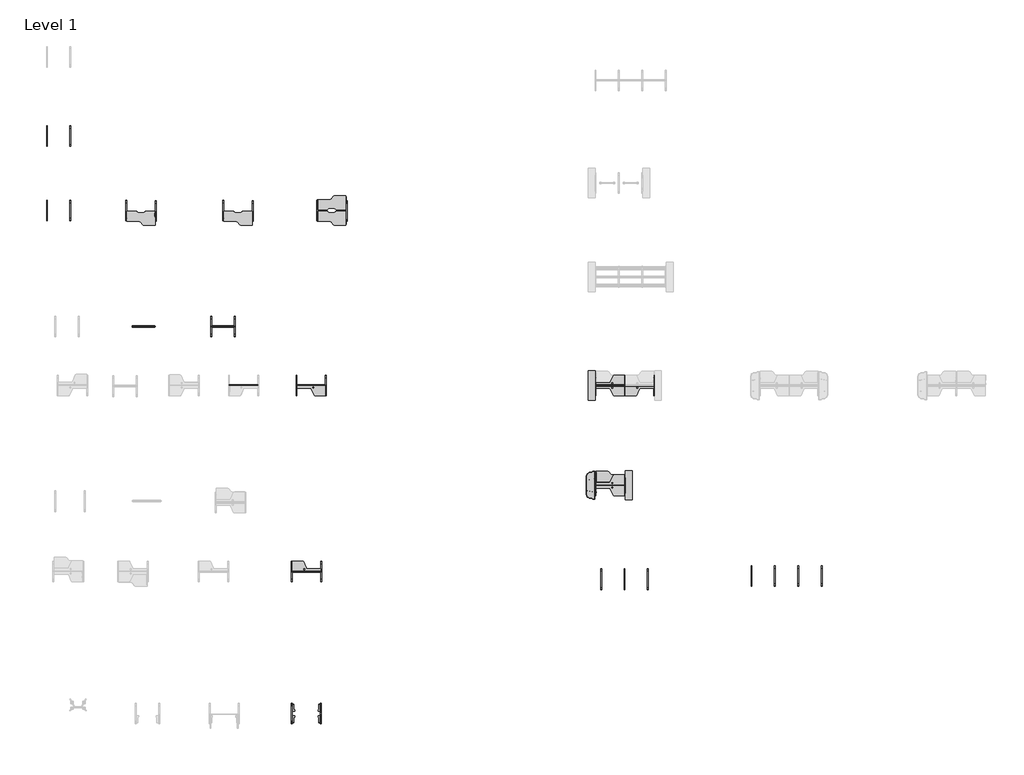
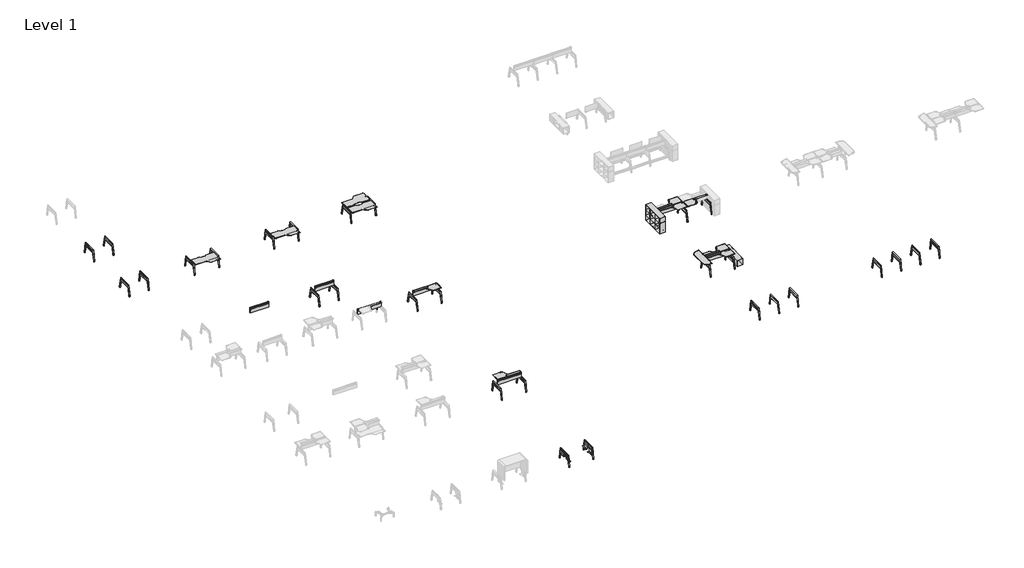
# One storey, part 2 of 4: 117 furniture elements.
"""IFC4 building model written with IfcOpenShell, lengths in millimetres."""

from ifc_helpers import new_model, si_unit, origin, place, context, project, spatial, transform, mapped, element, save
from components import furniture_07929c5c, furniture_5ffd5a01, furniture_46c987b0, furniture_3_high_75bf60bf, furniture_3_high_59e398f0, furniture_48w_f59d3814, furniture_60w_9ca0c22e, furniture_60w_6a745f56, furniture_60w_left_193ce283, furniture_60w_right_423f7bdd, furniture_60w_right_6b6f8c7d, furniture_60w_right_3e926bd7, furniture_60w_right_09d68f9b, attachment_bracket_e48f39cd, bracket_5da60547, bracket_b20a2959, full_half_8ba35e3a, full_half_125b1efd

model = new_model("IFC4")

# Units and contexts
model_context = context("Model", 3, world=origin())
ifc_project = project(units=[si_unit("LENGTHUNIT", "METRE", prefix="MILLI")], contexts=[model_context])

# Site, building, storey
site = spatial("IfcSite", under=ifc_project)
building = spatial("IfcBuilding", under=site)
storey = spatial("IfcBuildingStorey", under=building, Name="Level 1", Elevation=0.0)

# Furniture
placement = place(None, origin())
furniture_shape = furniture_07929c5c(model_context)
element("IfcFurniture", 1, ObjectType="Steelcase Turnstone - Bivi - Table - Leg : 2D x 42 1/4W 28 1/2H", at=placement, inside=storey, context=model_context, shape_type="MappedRepresentation", body=[
    mapped(furniture_shape, transform((693709.5422567, -1521.3993674, 0.0), x_axis=(-1.0, 0.0, 0.0), y_axis=(0.0, -1.0, 0.0), z_axis=(0.0, 0.0, 1.0))),
])
element("IfcFurniture", 2, ObjectType="Steelcase Turnstone - Bivi - Table - Leg : 2D x 42 1/4W 28 1/2H", at=placement, inside=storey, context=model_context, shape_type="MappedRepresentation", body=[
    mapped(furniture_shape, transform((702234.9696271, -11408.9383258, 0.0), x_axis=(-1.0, 0.0, 0.0), y_axis=(0.0, -1.0, 0.0), z_axis=(0.0, 0.0, 1.0))),
])
element("IfcFurniture", 3, ObjectType="Steelcase Turnstone - Bivi - Table - Leg : 2D x 42 1/4W 28 1/2H", at=placement, inside=storey, context=model_context, shape_type="MappedRepresentation", body=[
    mapped(furniture_shape, transform((706967.4208352, -14467.3937544, 0.0), x_axis=(-1.0, 0.0, 0.0), y_axis=(0.0, -1.0, 0.0), z_axis=(0.0, 0.0, 1.0))),
])
element("IfcFurniture", 4, ObjectType="Steelcase Turnstone - Bivi - Table - Leg : 2D x 42 1/4W 28 1/2H", at=placement, inside=storey, context=model_context, shape_type="MappedRepresentation", body=[
    mapped(furniture_shape, transform((693709.5422567, -5382.1993674, 0.0), x_axis=(-1.0, 0.0, 0.0), y_axis=(0.0, -1.0, 0.0), z_axis=(0.0, 0.0, 1.0))),
])
element("IfcFurniture", 5, ObjectType="Steelcase Turnstone - Bivi - Table - Leg : 2D x 42 1/4W 28 1/2H", at=placement, inside=storey, context=model_context, shape_type="MappedRepresentation", body=[
    mapped(furniture_shape, transform((698141.8482581, -5413.8699005, 0.0), x_axis=(-1.0, 0.0, 0.0), y_axis=(0.0, -1.0, 0.0), z_axis=(0.0, 0.0, 1.0))),
])
element("IfcFurniture", 6, ObjectType="Steelcase Turnstone - Bivi - Table - Leg : 2D x 42 1/4W 28 1/2H", at=placement, inside=storey, context=model_context, shape_type="MappedRepresentation", body=[
    mapped(furniture_shape, transform((703171.0482581, -5413.8699005, 0.0), x_axis=(-1.0, 0.0, 0.0), y_axis=(0.0, -1.0, 0.0), z_axis=(0.0, 0.0, 1.0))),
])
element("IfcFurniture", 7, ObjectType="Steelcase Turnstone - Bivi - Table - Leg : 2D x 42 1/4W 28 1/2H", at=placement, inside=storey, context=model_context, shape_type="MappedRepresentation", body=[
    mapped(furniture_shape, transform((708047.8482581, -5413.8699005, 0.0), x_axis=(-1.0, 0.0, 0.0), y_axis=(0.0, -1.0, 0.0), z_axis=(0.0, 0.0, 1.0))),
])
element("IfcFurniture", 8, ObjectType="Steelcase Turnstone - Bivi - Table - Leg : 2D x 42 1/4W 28 1/2H", at=placement, inside=storey, context=model_context, shape_type="MappedRepresentation", body=[
    mapped(furniture_shape, transform((706733.9327901, -24123.6204149, 0.0), x_axis=(-1.0, 0.0, 0.0), y_axis=(0.0, -1.0, 0.0), z_axis=(0.0, 0.0, 1.0))),
])
element("IfcFurniture", 9, ObjectType="Steelcase Turnstone - Bivi - Table - Leg : 2D x 42 1/4W 28 1/2H", at=placement, inside=storey, context=model_context, shape_type="MappedRepresentation", body=[
    mapped(furniture_shape, transform((706712.6550189, -31496.9374387, 0.0), x_axis=(-1.0, 0.0, 0.0), y_axis=(0.0, -1.0, 0.0), z_axis=(0.0, 0.0, 1.0))),
])
element("IfcFurniture", 10, ObjectType="Steelcase Turnstone - Bivi - Table - Leg : 2D x 42 1/4W 28 1/2H", at=placement, inside=storey, context=model_context, shape_type="MappedRepresentation", body=[
    mapped(furniture_shape, transform((722492.1850089, -14477.6722991, 0.0), x_axis=(-1.0, 0.0, 0.0), y_axis=(0.0, -1.0, 0.0), z_axis=(0.0, 0.0, 1.0))),
])
element("IfcFurniture", 11, ObjectType="Steelcase Turnstone - Bivi - Table - Leg : 2D x 42 1/4W 28 1/2H", at=placement, inside=storey, context=model_context, shape_type="MappedRepresentation", body=[
    mapped(furniture_shape, transform((722492.1850089, -19659.2722991, 0.0), x_axis=(-1.0, 0.0, 0.0), y_axis=(0.0, -1.0, 0.0), z_axis=(0.0, 0.0, 1.0))),
])
element("IfcFurniture", 12, ObjectType="Steelcase Turnstone - Bivi - Table - Leg : 2D x 42 1/4W 28 1/2H", at=placement, inside=storey, context=model_context, shape_type="MappedRepresentation", body=[
    mapped(furniture_shape, transform((722476.381193, -24527.5774873, 0.0), x_axis=(-1.0, 0.0, 0.0), y_axis=(0.0, -1.0, 0.0), z_axis=(0.0, 0.0, 1.0))),
])
element("IfcFurniture", 13, ObjectType="Steelcase Turnstone - Bivi - Table - Leg : 2D x 42 1/4W 28 1/2H", at=placement, inside=storey, context=model_context, shape_type="MappedRepresentation", body=[
    mapped(furniture_shape, transform((730287.3023207, -24364.8226951, 0.0), x_axis=(-1.0, 0.0, 0.0), y_axis=(0.0, -1.0, 0.0), z_axis=(0.0, 0.0, 1.0))),
])
element("IfcFurniture", 14, ObjectType="Steelcase Turnstone - Bivi - Table - Leg : 2D x 42 1/4W 28 1/2H", at=placement, inside=storey, context=model_context, shape_type="MappedRepresentation", body=[
    mapped(furniture_shape, transform((731504.8259207, -24364.8226951, 0.0), x_axis=(-1.0, 0.0, 0.0), y_axis=(0.0, -1.0, 0.0), z_axis=(0.0, 0.0, 1.0))),
])
element("IfcFurniture", 15, ObjectType="Steelcase Turnstone - Bivi - Table - Leg : 2D x 42 1/4W 28 1/2H", at=placement, inside=storey, context=model_context, shape_type="MappedRepresentation", body=[
    mapped(furniture_shape, transform((732722.3495207, -24364.8226951, 0.0), x_axis=(-1.0, 0.0, 0.0), y_axis=(0.0, -1.0, 0.0), z_axis=(0.0, 0.0, 1.0))),
])
furniture_2_shape = furniture_5ffd5a01(model_context)
element("IfcFurniture", 16, ObjectType="Steelcase Turnstone - Bivi - Table - Leg : 2D x 42 1/4W 28 1/2H", at=placement, inside=storey, context=model_context, shape_type="MappedRepresentation", body=[
    mapped(furniture_2_shape, transform((692442.8950567, -1521.3993674, 0.0), x_axis=(1.0, 0.0, 0.0), y_axis=(0.0, 1.0, 0.0), z_axis=(0.0, 0.0, 1.0))),
])
element("IfcFurniture", 17, ObjectType="Steelcase Turnstone - Bivi - Table - Leg : 2D x 42 1/4W 28 1/2H", at=placement, inside=storey, context=model_context, shape_type="MappedRepresentation", body=[
    mapped(furniture_2_shape, transform((700968.3224271, -11408.9383258, 0.0), x_axis=(1.0, 0.0, 0.0), y_axis=(0.0, 1.0, 0.0), z_axis=(0.0, 0.0, 1.0))),
])
element("IfcFurniture", 18, ObjectType="Steelcase Turnstone - Bivi - Table - Leg : 2D x 42 1/4W 28 1/2H", at=placement, inside=storey, context=model_context, shape_type="MappedRepresentation", body=[
    mapped(furniture_2_shape, transform((705395.9736352, -14467.3937544, 0.0), x_axis=(1.0, 0.0, 0.0), y_axis=(0.0, 1.0, 0.0), z_axis=(0.0, 0.0, 1.0))),
])
element("IfcFurniture", 19, ObjectType="Steelcase Turnstone - Bivi - Table - Leg : 2D x 42 1/4W 28 1/2H", at=placement, inside=storey, context=model_context, shape_type="MappedRepresentation", body=[
    mapped(furniture_2_shape, transform((692442.8950567, -5382.1993674, 0.0), x_axis=(1.0, 0.0, 0.0), y_axis=(0.0, 1.0, 0.0), z_axis=(0.0, 0.0, 1.0))),
])
element("IfcFurniture", 20, ObjectType="Steelcase Turnstone - Bivi - Table - Leg : 2D x 42 1/4W 28 1/2H", at=placement, inside=storey, context=model_context, shape_type="MappedRepresentation", body=[
    mapped(furniture_2_shape, transform((696557.6950567, -5382.1993674, 0.0), x_axis=(1.0, 0.0, 0.0), y_axis=(0.0, 1.0, 0.0), z_axis=(0.0, 0.0, 1.0))),
])
element("IfcFurniture", 21, ObjectType="Steelcase Turnstone - Bivi - Table - Leg : 2D x 42 1/4W 28 1/2H", at=placement, inside=storey, context=model_context, shape_type="MappedRepresentation", body=[
    mapped(furniture_2_shape, transform((701586.8950567, -5382.1993674, 0.0), x_axis=(1.0, 0.0, 0.0), y_axis=(0.0, 1.0, 0.0), z_axis=(0.0, 0.0, 1.0))),
])
element("IfcFurniture", 22, ObjectType="Steelcase Turnstone - Bivi - Table - Leg : 2D x 42 1/4W 28 1/2H", at=placement, inside=storey, context=model_context, shape_type="MappedRepresentation", body=[
    mapped(furniture_2_shape, transform((706463.6950567, -5382.1993674, 0.0), x_axis=(1.0, 0.0, 0.0), y_axis=(0.0, 1.0, 0.0), z_axis=(0.0, 0.0, 1.0))),
])
element("IfcFurniture", 23, ObjectType="Steelcase Turnstone - Bivi - Table - Leg : 2D x 42 1/4W 28 1/2H", at=placement, inside=storey, context=model_context, shape_type="MappedRepresentation", body=[
    mapped(furniture_2_shape, transform((705147.0911447, -24123.6204149, 0.0), x_axis=(1.0, 0.0, 0.0), y_axis=(0.0, 1.0, 0.0), z_axis=(0.0, 0.0, 1.0))),
])
element("IfcFurniture", 24, ObjectType="Steelcase Turnstone - Bivi - Table - Leg : 2D x 42 1/4W 28 1/2H", at=placement, inside=storey, context=model_context, shape_type="MappedRepresentation", body=[
    mapped(furniture_2_shape, transform((705147.0911447, -31496.9374387, 0.0), x_axis=(1.0, 0.0, 0.0), y_axis=(0.0, 1.0, 0.0), z_axis=(0.0, 0.0, 1.0))),
])
element("IfcFurniture", 25, ObjectType="Steelcase Turnstone - Bivi - Table - Leg : 2D x 42 1/4W 28 1/2H", at=placement, inside=storey, context=model_context, shape_type="MappedRepresentation", body=[
    mapped(furniture_2_shape, transform((720920.7378089, -14477.6722991, 0.0), x_axis=(1.0, 0.0, 0.0), y_axis=(0.0, 1.0, 0.0), z_axis=(0.0, 0.0, 1.0))),
])
element("IfcFurniture", 26, ObjectType="Steelcase Turnstone - Bivi - Table - Leg : 2D x 42 1/4W 28 1/2H", at=placement, inside=storey, context=model_context, shape_type="MappedRepresentation", body=[
    mapped(furniture_2_shape, transform((723963.7086089, -14477.6722991, 0.0), x_axis=(1.0, 0.0, 0.0), y_axis=(0.0, 1.0, 0.0), z_axis=(0.0, 0.0, 1.0))),
])
element("IfcFurniture", 27, ObjectType="Steelcase Turnstone - Bivi - Table - Leg : 2D x 42 1/4W 28 1/2H", at=placement, inside=storey, context=model_context, shape_type="MappedRepresentation", body=[
    mapped(furniture_2_shape, transform((720920.7378089, -19659.2722991, 0.0), x_axis=(1.0, 0.0, 0.0), y_axis=(0.0, 1.0, 0.0), z_axis=(0.0, 0.0, 1.0))),
])
element("IfcFurniture", 28, ObjectType="Steelcase Turnstone - Bivi - Table - Leg : 2D x 42 1/4W 28 1/2H", at=placement, inside=storey, context=model_context, shape_type="MappedRepresentation", body=[
    mapped(furniture_2_shape, transform((721209.733993, -24527.5774873, 0.0), x_axis=(1.0, 0.0, 0.0), y_axis=(0.0, 1.0, 0.0), z_axis=(0.0, 0.0, 1.0))),
])
element("IfcFurniture", 29, ObjectType="Steelcase Turnstone - Bivi - Table - Leg : 2D x 42 1/4W 28 1/2H", at=placement, inside=storey, context=model_context, shape_type="MappedRepresentation", body=[
    mapped(furniture_2_shape, transform((723644.781193, -24527.5774873, 0.0), x_axis=(1.0, 0.0, 0.0), y_axis=(0.0, 1.0, 0.0), z_axis=(0.0, 0.0, 1.0))),
])
element("IfcFurniture", 30, ObjectType="Steelcase Turnstone - Bivi - Table - Leg : 2D x 42 1/4W 28 1/2H", at=placement, inside=storey, context=model_context, shape_type="MappedRepresentation", body=[
    mapped(furniture_2_shape, transform((729020.6551207, -24364.8226951, 0.0), x_axis=(1.0, 0.0, 0.0), y_axis=(0.0, 1.0, 0.0), z_axis=(0.0, 0.0, 1.0))),
])
element("IfcFurniture", 31, ObjectType="Steelcase Turnstone - Bivi - Table - Leg : 2D x 42 1/4W 28 1/2H", at=placement, inside=storey, context=model_context, shape_type="MappedRepresentation", body=[
    mapped(furniture_2_shape, transform((731455.7023207, -24364.8226951, 0.0), x_axis=(1.0, 0.0, 0.0), y_axis=(0.0, 1.0, 0.0), z_axis=(0.0, 0.0, 1.0))),
])
furniture_3_shape = furniture_46c987b0(model_context)
element("IfcFurniture", 32, ObjectType="Steelcase Turnstone - Bivi - Storage - Trunk Support : Attachcment Bracket", at=placement, inside=storey, context=model_context, shape_type="MappedRepresentation", body=[
    mapped(furniture_3_shape, transform((722470.1505237, -19877.1288494, 0.0), x_axis=(0.0, 1.0000000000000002, 0.0), y_axis=(-1.0000000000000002, 0.0, 0.0), z_axis=(0.0, 0.0, 1.0))),
])
furniture_3_high_shape = furniture_3_high_75bf60bf(model_context)
furniture_3_high_2_shape = furniture_3_high_59e398f0(model_context)
element("IfcFurniture", 33, ObjectType="Steelcase Turnstone - Bivi - Storage - Depot : 3 High", at=placement, inside=storey, context=model_context, shape_type="MappedRepresentation", body=[
    mapped(furniture_3_high_shape, transform((720568.3128089, -14695.5288494, 0.0), x_axis=(0.0, 1.0, 0.0), y_axis=(-1.0, 0.0, 0.0), z_axis=(0.0, 0.0, 1.0))),
    mapped(furniture_3_high_2_shape, transform((720568.3128089, -14695.5288494, 0.0), x_axis=(0.0, 1.0, 0.0), y_axis=(-1.0, 0.0, 0.0), z_axis=(0.0, 0.0, 1.0))),
])
furniture_48w_shape = furniture_48w_f59d3814(model_context)
element("IfcFurniture", 34, ObjectType="Steelcase Turnstone - Bivi - Accessories - High Sit Bracket with Modesty Panel : 48W", at=placement, inside=storey, context=model_context, shape_type="MappedRepresentation", body=[
    mapped(furniture_48w_shape, transform((696748.4680271, -10782.6400419, 0.0), x_axis=(1.0, 0.0, 0.0), y_axis=(0.0, 1.0, 0.0), z_axis=(0.0, 0.0, 1.0))),
])
element("IfcFurniture", 35, ObjectType="Steelcase Turnstone - Bivi - Accessories - High Sit Bracket with Modesty Panel : 48W", at=placement, inside=storey, context=model_context, shape_type="MappedRepresentation", body=[
    mapped(furniture_48w_shape, transform((700863.2680271, -10782.6400419, 0.0), x_axis=(1.0, 0.0, 0.0), y_axis=(0.0, 1.0, 0.0), z_axis=(0.0, 0.0, 1.0))),
])
furniture_60w_shape = furniture_60w_9ca0c22e(model_context)
element("IfcFurniture", 36, ObjectType="Steelcase Turnstone - Bivi - Accessories - High Sit Bracket with Modesty Panel : 60W", at=placement, inside=storey, context=model_context, shape_type="MappedRepresentation", body=[
    mapped(furniture_60w_shape, transform((701938.1192352, -13841.0954705, 0.0), x_axis=(1.0, 0.0, 0.0), y_axis=(0.0, 1.0, 0.0), z_axis=(0.0, 0.0, 1.0))),
])
element("IfcFurniture", 37, ObjectType="Steelcase Turnstone - Bivi - Accessories - High Sit Bracket with Modesty Panel : 60W", at=placement, inside=storey, context=model_context, shape_type="MappedRepresentation", body=[
    mapped(furniture_60w_shape, transform((705443.3192352, -13841.0954705, 0.0), x_axis=(1.0, 0.0, 0.0), y_axis=(0.0, 1.0, 0.0), z_axis=(0.0, 0.0, 1.0))),
])
element("IfcFurniture", 38, ObjectType="Steelcase Turnstone - Bivi - Accessories - High Sit Bracket with Modesty Panel : 60W", at=placement, inside=storey, context=model_context, shape_type="MappedRepresentation", body=[
    mapped(furniture_60w_shape, transform((705202.1339674, -23504.5006044, 0.0), x_axis=(1.0, 0.0, 0.0), y_axis=(0.0, 1.0, 0.0), z_axis=(0.0, 0.0, 1.0))),
])
element("IfcFurniture", 39, ObjectType="Steelcase Turnstone - Bivi - Accessories - High Sit Bracket with Modesty Panel : 60W", at=placement, inside=storey, context=model_context, shape_type="MappedRepresentation", body=[
    mapped(furniture_60w_shape, transform((720969.4306316, -13851.2769492, 0.0), x_axis=(1.0, 0.0, 0.0), y_axis=(0.0, 1.0, 0.0), z_axis=(0.0, 0.0, 1.0))),
])
element("IfcFurniture", 40, ObjectType="Steelcase Turnstone - Bivi - Accessories - High Sit Bracket with Modesty Panel : 60W", at=placement, inside=storey, context=model_context, shape_type="MappedRepresentation", body=[
    mapped(furniture_60w_shape, transform((720969.4306316, -19032.8769492, 0.0), x_axis=(1.0, 0.0, 0.0), y_axis=(0.0, 1.0, 0.0), z_axis=(0.0, 0.0, 1.0))),
])
furniture_60w_2_shape = furniture_60w_6a745f56(model_context)
element("IfcFurniture", 41, ObjectType="Steelcase Turnstone - Bivi - Table - Transaction : 60W", at=placement, inside=storey, context=model_context, shape_type="MappedRepresentation", body=[
    mapped(furniture_60w_2_shape, transform((720919.3046739, -18360.6353497, 0.0), x_axis=(0.0, -1.0000000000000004, 0.0), y_axis=(1.0000000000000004, 0.0, 0.0), z_axis=(0.0, 0.0, 1.0))),
])
furniture_60w_left_shape = furniture_60w_left_193ce283(model_context)
element("IfcFurniture", 42, ObjectType="Steelcase Turnstone - Bivi - Table - Dual Top - Upper : 60W - Left", at=placement, inside=storey, context=model_context, shape_type="MappedRepresentation", body=[
    mapped(furniture_60w_left_shape, transform((722341.5790244, -14769.019473, 0.0), x_axis=(1.0, 0.0, 0.0), y_axis=(0.0, 1.0, 0.0), z_axis=(0.0, 0.0, 1.0))),
])
furniture_60w_right_shape = furniture_60w_right_423f7bdd(model_context)
element("IfcFurniture", 43, ObjectType="Steelcase Turnstone - Bivi - Table - Dual Top - Lower : 60W - Right", at=placement, inside=storey, context=model_context, shape_type="MappedRepresentation", body=[
    mapped(furniture_60w_right_shape, transform((696456.9754163, -5704.3601414, 0.0), x_axis=(1.0, 0.0, 0.0), y_axis=(0.0, 1.0, 0.0), z_axis=(0.0, 0.0, 1.0))),
])
element("IfcFurniture", 44, ObjectType="Steelcase Turnstone - Bivi - Table - Dual Top - Lower : 60W - Right", at=placement, inside=storey, context=model_context, shape_type="MappedRepresentation", body=[
    mapped(furniture_60w_right_shape, transform((701498.8754163, -5704.3601414, 0.0), x_axis=(1.0, 0.0, 0.0), y_axis=(0.0, 1.0, 0.0), z_axis=(0.0, 0.0, 1.0))),
])
element("IfcFurniture", 45, ObjectType="Steelcase Turnstone - Bivi - Table - Dual Top - Lower : 60W - Right", at=placement, inside=storey, context=model_context, shape_type="MappedRepresentation", body=[
    mapped(furniture_60w_right_shape, transform((706362.9754163, -5704.3601414, 0.0), x_axis=(1.0, 0.0, 0.0), y_axis=(0.0, 1.0, 0.0), z_axis=(0.0, 0.0, 1.0))),
])
element("IfcFurniture", 46, ObjectType="Steelcase Turnstone - Bivi - Table - Dual Top - Lower : 60W - Right", at=placement, inside=storey, context=model_context, shape_type="MappedRepresentation", body=[
    mapped(furniture_60w_right_shape, transform((722592.9046493, -18285.5813032, 0.0), x_axis=(-1.0000000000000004, 0.0, 0.0), y_axis=(0.0, -1.0000000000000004, 0.0), z_axis=(0.0, 0.0, 1.0))),
])
furniture_60w_right_2_shape = furniture_60w_right_6b6f8c7d(model_context)
element("IfcFurniture", 47, ObjectType="Steelcase Turnstone - Bivi - Table - Dual Top - Upper : 60W - Right", at=placement, inside=storey, context=model_context, shape_type="MappedRepresentation", body=[
    mapped(furniture_60w_right_2_shape, transform((705294.4912507, -14758.7409282, 12.6390766), x_axis=(1.0, 0.0, 0.0), y_axis=(0.0, 1.0, 0.0), z_axis=(0.0, 0.0, 1.0))),
])
element("IfcFurniture", 48, ObjectType="Steelcase Turnstone - Bivi - Table - Dual Top - Upper : 60W - Right", at=placement, inside=storey, context=model_context, shape_type="MappedRepresentation", body=[
    mapped(furniture_60w_right_2_shape, transform((706829.4959519, -22757.2049585, 0.0), x_axis=(-1.0000000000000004, 0.0, 0.0), y_axis=(0.0, -1.0000000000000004, 0.0), z_axis=(0.0, 0.0, 1.0))),
])
element("IfcFurniture", 49, ObjectType="Steelcase Turnstone - Bivi - Table - Dual Top - Upper : 60W - Right", at=placement, inside=storey, context=model_context, shape_type="MappedRepresentation", body=[
    mapped(furniture_60w_right_2_shape, transform((720819.2554244, -14769.019473, 0.0), x_axis=(1.0, 0.0, 0.0), y_axis=(0.0, 1.0, 0.0), z_axis=(0.0, 0.0, 1.0))),
])
element("IfcFurniture", 50, ObjectType="Steelcase Turnstone - Bivi - Table - Dual Top - Upper : 60W - Right", at=placement, inside=storey, context=model_context, shape_type="MappedRepresentation", body=[
    mapped(furniture_60w_right_2_shape, transform((720819.2554244, -19950.619473, 0.0), x_axis=(1.0, 0.0, 0.0), y_axis=(0.0, 1.0, 0.0), z_axis=(0.0, 0.0, 1.0))),
])
furniture_60w_right_3_shape = furniture_60w_right_3e926bd7(model_context)
element("IfcFurniture", 51, ObjectType="Steelcase Turnstone - Bivi - Table - Dual Top - Lower : 60W - Right", at=placement, inside=storey, context=model_context, shape_type="MappedRepresentation", body=[
    mapped(furniture_60w_right_3_shape, transform((706362.9754163, -3986.7646945, 0.0), x_axis=(1.0, 0.0, 0.0), y_axis=(0.0, 1.0, 0.0), z_axis=(0.0, 0.0, 1.0))),
])
furniture_60w_right_4_shape = furniture_60w_right_09d68f9b(model_context)
element("IfcFurniture", 52, ObjectType="Steelcase Turnstone - Bivi - Table - Dual Top - Upper : 60W - Right", at=placement, inside=storey, context=model_context, shape_type="MappedRepresentation", body=[
    mapped(furniture_60w_right_4_shape, transform((720819.2554244, -13098.5001474, 0.0), x_axis=(1.0, 0.0, 0.0), y_axis=(0.0, 1.0, 0.0), z_axis=(0.0, 0.0, 1.0))),
])
element("IfcFurniture", 53, ObjectType="Steelcase Turnstone - Bivi - Table - Dual Top - Upper : 60W - Right", at=placement, inside=storey, context=model_context, shape_type="MappedRepresentation", body=[
    mapped(furniture_60w_right_4_shape, transform((720819.2554244, -18280.1001474, 0.0), x_axis=(1.0, 0.0, 0.0), y_axis=(0.0, 1.0, 0.0), z_axis=(0.0, 0.0, 1.0))),
])
attachment_bracket_shape = attachment_bracket_e48f39cd(model_context)
element("IfcFurniture", 54, ObjectType="Steelcase Turnstone - Bivi - Storage - Trunk : Attachment Bracket", at=placement, inside=storey, context=model_context, shape_type="MappedRepresentation", body=[
    mapped(attachment_bracket_shape, transform((722494.7122028, -19877.1288494, 0.0), x_axis=(0.0, 1.0000000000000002, 0.0), y_axis=(-1.0000000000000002, 0.0, 0.0), z_axis=(0.0, 0.0, 1.0))),
])
bracket_shape = bracket_5da60547(model_context)
element("IfcFurniture", 55, ObjectType="Steelcase Turnstone - Bivi - Seat - Rumble Seat - Table Frame Attachment Bracket : Bracket", at=placement, inside=storey, context=model_context, shape_type="MappedRepresentation", body=[
    mapped(bracket_shape, transform((705090.6445691, -31249.1441068, 0.2767651), x_axis=(1.0, 0.0, 0.0), y_axis=(0.0, 1.0, 0.0), z_axis=(0.0, 0.0, 1.0))),
])
bracket_2_shape = bracket_b20a2959(model_context)
element("IfcFurniture", 56, ObjectType="Steelcase Turnstone - Bivi - Seat - Rumble Seat - Table Frame Attachment Bracket : Bracket", at=placement, inside=storey, context=model_context, shape_type="MappedRepresentation", body=[
    mapped(bracket_2_shape, transform((705090.6445691, -30671.4568717, 0.2767651), x_axis=(1.0, 0.0, 0.0), y_axis=(0.0, 1.0, 0.0), z_axis=(0.0, 0.0, 1.0))),
])
full_half_shape = full_half_8ba35e3a(model_context)
element("IfcFurniture", 57, ObjectType="Steelcase Turnstone - Bivi - Table - Leg Cover : Full/Half", at=placement, inside=storey, context=model_context, shape_type="MappedRepresentation", body=[
    mapped(full_half_shape, transform((692442.8950567, -1521.3993674, 0.0), x_axis=(1.0, 0.0, 0.0), y_axis=(0.0, 1.0, 0.0), z_axis=(0.0, 0.0, 1.0))),
])
element("IfcFurniture", 58, ObjectType="Steelcase Turnstone - Bivi - Table - Leg Cover : Full/Half", at=placement, inside=storey, context=model_context, shape_type="MappedRepresentation", body=[
    mapped(full_half_shape, transform((693709.5422567, -448.1254685, 0.0), x_axis=(-1.0, 0.0, 0.0), y_axis=(0.0, -1.0, 0.0), z_axis=(0.0, 0.0, 1.0))),
])
element("IfcFurniture", 59, ObjectType="Steelcase Turnstone - Bivi - Table - Leg Cover : Full/Half", at=placement, inside=storey, context=model_context, shape_type="MappedRepresentation", body=[
    mapped(full_half_shape, transform((700968.3224271, -11408.9383258, 0.0), x_axis=(1.0, 0.0, 0.0), y_axis=(0.0, 1.0, 0.0), z_axis=(0.0, 0.0, 1.0))),
])
element("IfcFurniture", 60, ObjectType="Steelcase Turnstone - Bivi - Table - Leg Cover : Full/Half", at=placement, inside=storey, context=model_context, shape_type="MappedRepresentation", body=[
    mapped(full_half_shape, transform((702234.9696271, -10335.6644269, 0.0), x_axis=(-1.0, 0.0, 0.0), y_axis=(0.0, -1.0, 0.0), z_axis=(0.0, 0.0, 1.0))),
])
element("IfcFurniture", 61, ObjectType="Steelcase Turnstone - Bivi - Table - Leg Cover : Full/Half", at=placement, inside=storey, context=model_context, shape_type="MappedRepresentation", body=[
    mapped(full_half_shape, transform((703462.2208352, -13394.1198555, 0.0), x_axis=(-1.0, 0.0, 0.0), y_axis=(0.0, -1.0, 0.0), z_axis=(0.0, 0.0, 1.0))),
])
element("IfcFurniture", 62, ObjectType="Steelcase Turnstone - Bivi - Table - Leg Cover : Full/Half", at=placement, inside=storey, context=model_context, shape_type="MappedRepresentation", body=[
    mapped(full_half_shape, transform((705395.9736352, -14467.3937544, 0.0), x_axis=(1.0, 0.0, 0.0), y_axis=(0.0, 1.0, 0.0), z_axis=(0.0, 0.0, 1.0))),
])
element("IfcFurniture", 63, ObjectType="Steelcase Turnstone - Bivi - Table - Leg Cover : Full/Half", at=placement, inside=storey, context=model_context, shape_type="MappedRepresentation", body=[
    mapped(full_half_shape, transform((706967.4208352, -13394.1198555, 0.0), x_axis=(-1.0, 0.0, 0.0), y_axis=(0.0, -1.0, 0.0), z_axis=(0.0, 0.0, 1.0))),
])
element("IfcFurniture", 64, ObjectType="Steelcase Turnstone - Bivi - Table - Leg Cover : Full/Half", at=placement, inside=storey, context=model_context, shape_type="MappedRepresentation", body=[
    mapped(full_half_shape, transform((692442.8950567, -5382.1993674, 0.0), x_axis=(1.0, 0.0, 0.0), y_axis=(0.0, 1.0, 0.0), z_axis=(0.0, 0.0, 1.0))),
])
element("IfcFurniture", 65, ObjectType="Steelcase Turnstone - Bivi - Table - Leg Cover : Full/Half", at=placement, inside=storey, context=model_context, shape_type="MappedRepresentation", body=[
    mapped(full_half_shape, transform((693709.5422567, -4308.9254685, 0.0), x_axis=(-1.0, 0.0, 0.0), y_axis=(0.0, -1.0, 0.0), z_axis=(0.0, 0.0, 1.0))),
])
element("IfcFurniture", 66, ObjectType="Steelcase Turnstone - Bivi - Table - Leg Cover : Full/Half", at=placement, inside=storey, context=model_context, shape_type="MappedRepresentation", body=[
    mapped(full_half_shape, transform((696557.6950567, -5382.1993674, 0.0), x_axis=(1.0, 0.0, 0.0), y_axis=(0.0, 1.0, 0.0), z_axis=(0.0, 0.0, 1.0))),
])
element("IfcFurniture", 67, ObjectType="Steelcase Turnstone - Bivi - Table - Leg Cover : Full/Half", at=placement, inside=storey, context=model_context, shape_type="MappedRepresentation", body=[
    mapped(full_half_shape, transform((698141.8482581, -4340.5960016, 0.0), x_axis=(-1.0, 0.0, 0.0), y_axis=(0.0, -1.0, 0.0), z_axis=(0.0, 0.0, 1.0))),
])
element("IfcFurniture", 68, ObjectType="Steelcase Turnstone - Bivi - Table - Leg Cover : Full/Half", at=placement, inside=storey, context=model_context, shape_type="MappedRepresentation", body=[
    mapped(full_half_shape, transform((701586.8950567, -5382.1993674, 0.0), x_axis=(1.0, 0.0, 0.0), y_axis=(0.0, 1.0, 0.0), z_axis=(0.0, 0.0, 1.0))),
])
element("IfcFurniture", 69, ObjectType="Steelcase Turnstone - Bivi - Table - Leg Cover : Full/Half", at=placement, inside=storey, context=model_context, shape_type="MappedRepresentation", body=[
    mapped(full_half_shape, transform((703171.0482581, -4340.5960016, 0.0), x_axis=(-1.0, 0.0, 0.0), y_axis=(0.0, -1.0, 0.0), z_axis=(0.0, 0.0, 1.0))),
])
element("IfcFurniture", 70, ObjectType="Steelcase Turnstone - Bivi - Table - Leg Cover : Full/Half", at=placement, inside=storey, context=model_context, shape_type="MappedRepresentation", body=[
    mapped(full_half_shape, transform((706463.6950567, -5382.1993674, 0.0), x_axis=(1.0, 0.0, 0.0), y_axis=(0.0, 1.0, 0.0), z_axis=(0.0, 0.0, 1.0))),
])
element("IfcFurniture", 71, ObjectType="Steelcase Turnstone - Bivi - Table - Leg Cover : Full/Half", at=placement, inside=storey, context=model_context, shape_type="MappedRepresentation", body=[
    mapped(full_half_shape, transform((708047.8482581, -4340.5960016, 0.0), x_axis=(-1.0, 0.0, 0.0), y_axis=(0.0, -1.0, 0.0), z_axis=(0.0, 0.0, 1.0))),
])
element("IfcFurniture", 72, ObjectType="Steelcase Turnstone - Bivi - Table - Leg Cover : Full/Half", at=placement, inside=storey, context=model_context, shape_type="MappedRepresentation", body=[
    mapped(full_half_shape, transform((705147.0911447, -24123.6204149, 0.0), x_axis=(1.0, 0.0, 0.0), y_axis=(0.0, 1.0, 0.0), z_axis=(0.0, 0.0, 1.0))),
])
element("IfcFurniture", 73, ObjectType="Steelcase Turnstone - Bivi - Table - Leg Cover : Full/Half", at=placement, inside=storey, context=model_context, shape_type="MappedRepresentation", body=[
    mapped(full_half_shape, transform((706733.9327901, -23050.346516, 0.0), x_axis=(-1.0, 0.0, 0.0), y_axis=(0.0, -1.0, 0.0), z_axis=(0.0, 0.0, 1.0))),
])
element("IfcFurniture", 74, ObjectType="Steelcase Turnstone - Bivi - Table - Leg Cover : Full/Half", at=placement, inside=storey, context=model_context, shape_type="MappedRepresentation", body=[
    mapped(full_half_shape, transform((705147.0911447, -31496.9374387, 0.0), x_axis=(1.0, 0.0, 0.0), y_axis=(0.0, 1.0, 0.0), z_axis=(0.0, 0.0, 1.0))),
])
element("IfcFurniture", 75, ObjectType="Steelcase Turnstone - Bivi - Table - Leg Cover : Full/Half", at=placement, inside=storey, context=model_context, shape_type="MappedRepresentation", body=[
    mapped(full_half_shape, transform((706712.6550189, -30423.6635398, 0.0), x_axis=(-1.0, 0.0, 0.0), y_axis=(0.0, -1.0, 0.0), z_axis=(0.0, 0.0, 1.0))),
])
element("IfcFurniture", 76, ObjectType="Steelcase Turnstone - Bivi - Table - Leg Cover : Full/Half", at=placement, inside=storey, context=model_context, shape_type="MappedRepresentation", body=[
    mapped(full_half_shape, transform((720920.7378089, -14477.6722991, 0.0), x_axis=(1.0, 0.0, 0.0), y_axis=(0.0, 1.0, 0.0), z_axis=(0.0, 0.0, 1.0))),
])
element("IfcFurniture", 77, ObjectType="Steelcase Turnstone - Bivi - Table - Leg Cover : Full/Half", at=placement, inside=storey, context=model_context, shape_type="MappedRepresentation", body=[
    mapped(full_half_shape, transform((723963.7086089, -14477.6722991, 0.0), x_axis=(1.0, 0.0, 0.0), y_axis=(0.0, 1.0, 0.0), z_axis=(0.0, 0.0, 1.0))),
])
element("IfcFurniture", 78, ObjectType="Steelcase Turnstone - Bivi - Table - Leg Cover : Full/Half", at=placement, inside=storey, context=model_context, shape_type="MappedRepresentation", body=[
    mapped(full_half_shape, transform((720920.7378089, -19659.2722991, 0.0), x_axis=(1.0, 0.0, 0.0), y_axis=(0.0, 1.0, 0.0), z_axis=(0.0, 0.0, 1.0))),
])
element("IfcFurniture", 79, ObjectType="Steelcase Turnstone - Bivi - Table - Leg Cover : Full/Half", at=placement, inside=storey, context=model_context, shape_type="MappedRepresentation", body=[
    mapped(full_half_shape, transform((722492.1850089, -18585.9984002, 0.0), x_axis=(-1.0, 0.0, 0.0), y_axis=(0.0, -1.0, 0.0), z_axis=(0.0, 0.0, 1.0))),
])
element("IfcFurniture", 80, ObjectType="Steelcase Turnstone - Bivi - Table - Leg Cover : Full/Half", at=placement, inside=storey, context=model_context, shape_type="MappedRepresentation", body=[
    mapped(full_half_shape, transform((721209.733993, -24527.5774873, 0.0), x_axis=(1.0, 0.0, 0.0), y_axis=(0.0, 1.0, 0.0), z_axis=(0.0, 0.0, 1.0))),
])
element("IfcFurniture", 81, ObjectType="Steelcase Turnstone - Bivi - Table - Leg Cover : Full/Half", at=placement, inside=storey, context=model_context, shape_type="MappedRepresentation", body=[
    mapped(full_half_shape, transform((722476.381193, -23454.3035884, 0.0), x_axis=(-1.0, 0.0, 0.0), y_axis=(0.0, -1.0, 0.0), z_axis=(0.0, 0.0, 1.0))),
])
element("IfcFurniture", 82, ObjectType="Steelcase Turnstone - Bivi - Table - Leg Cover : Full/Half", at=placement, inside=storey, context=model_context, shape_type="MappedRepresentation", body=[
    mapped(full_half_shape, transform((723644.781193, -24527.5774873, 0.0), x_axis=(1.0, 0.0, 0.0), y_axis=(0.0, 1.0, 0.0), z_axis=(0.0, 0.0, 1.0))),
])
element("IfcFurniture", 83, ObjectType="Steelcase Turnstone - Bivi - Table - Leg Cover : Full/Half", at=placement, inside=storey, context=model_context, shape_type="MappedRepresentation", body=[
    mapped(full_half_shape, transform((729020.6551207, -24364.8226951, 0.0), x_axis=(1.0, 0.0, 0.0), y_axis=(0.0, 1.0, 0.0), z_axis=(0.0, 0.0, 1.0))),
])
element("IfcFurniture", 84, ObjectType="Steelcase Turnstone - Bivi - Table - Leg Cover : Full/Half", at=placement, inside=storey, context=model_context, shape_type="MappedRepresentation", body=[
    mapped(full_half_shape, transform((730287.3023207, -23291.5487962, 0.0), x_axis=(-1.0, 0.0, 0.0), y_axis=(0.0, -1.0, 0.0), z_axis=(0.0, 0.0, 1.0))),
])
element("IfcFurniture", 85, ObjectType="Steelcase Turnstone - Bivi - Table - Leg Cover : Full/Half", at=placement, inside=storey, context=model_context, shape_type="MappedRepresentation", body=[
    mapped(full_half_shape, transform((731504.8259207, -23291.5487962, 0.0), x_axis=(-1.0, 0.0, 0.0), y_axis=(0.0, -1.0, 0.0), z_axis=(0.0, 0.0, 1.0))),
])
element("IfcFurniture", 86, ObjectType="Steelcase Turnstone - Bivi - Table - Leg Cover : Full/Half", at=placement, inside=storey, context=model_context, shape_type="MappedRepresentation", body=[
    mapped(full_half_shape, transform((731455.7023207, -24364.8226951, 0.0), x_axis=(1.0, 0.0, 0.0), y_axis=(0.0, 1.0, 0.0), z_axis=(0.0, 0.0, 1.0))),
])
element("IfcFurniture", 87, ObjectType="Steelcase Turnstone - Bivi - Table - Leg Cover : Full/Half", at=placement, inside=storey, context=model_context, shape_type="MappedRepresentation", body=[
    mapped(full_half_shape, transform((732722.3495207, -23291.5487962, 0.0), x_axis=(-1.0, 0.0, 0.0), y_axis=(0.0, -1.0, 0.0), z_axis=(0.0, 0.0, 1.0))),
])
full_half_2_shape = full_half_125b1efd(model_context)
element("IfcFurniture", 88, ObjectType="Steelcase Turnstone - Bivi - Table - Leg Cover : Full/Half", at=placement, inside=storey, context=model_context, shape_type="MappedRepresentation", body=[
    mapped(full_half_2_shape, transform((692442.8950567, -448.1254685, 0.0), x_axis=(1.0, 0.0, 0.0), y_axis=(0.0, 1.0, 0.0), z_axis=(0.0, 0.0, 1.0))),
])
element("IfcFurniture", 89, ObjectType="Steelcase Turnstone - Bivi - Table - Leg Cover : Full/Half", at=placement, inside=storey, context=model_context, shape_type="MappedRepresentation", body=[
    mapped(full_half_2_shape, transform((693709.5422567, -1521.3993674, 0.0), x_axis=(-1.0, 0.0, 0.0), y_axis=(0.0, -1.0, 0.0), z_axis=(0.0, 0.0, 1.0))),
])
element("IfcFurniture", 90, ObjectType="Steelcase Turnstone - Bivi - Table - Leg Cover : Full/Half", at=placement, inside=storey, context=model_context, shape_type="MappedRepresentation", body=[
    mapped(full_half_2_shape, transform((700968.3224271, -10335.6644269, 0.0), x_axis=(1.0, 0.0, 0.0), y_axis=(0.0, 1.0, 0.0), z_axis=(0.0, 0.0, 1.0))),
])
element("IfcFurniture", 91, ObjectType="Steelcase Turnstone - Bivi - Table - Leg Cover : Full/Half", at=placement, inside=storey, context=model_context, shape_type="MappedRepresentation", body=[
    mapped(full_half_2_shape, transform((702234.9696271, -11408.9383258, 0.0), x_axis=(-1.0, 0.0, 0.0), y_axis=(0.0, -1.0, 0.0), z_axis=(0.0, 0.0, 1.0))),
])
element("IfcFurniture", 92, ObjectType="Steelcase Turnstone - Bivi - Table - Leg Cover : Full/Half", at=placement, inside=storey, context=model_context, shape_type="MappedRepresentation", body=[
    mapped(full_half_2_shape, transform((705395.9736352, -13394.1198555, 0.0), x_axis=(1.0, 0.0, 0.0), y_axis=(0.0, 1.0, 0.0), z_axis=(0.0, 0.0, 1.0))),
])
element("IfcFurniture", 93, ObjectType="Steelcase Turnstone - Bivi - Table - Leg Cover : Full/Half", at=placement, inside=storey, context=model_context, shape_type="MappedRepresentation", body=[
    mapped(full_half_2_shape, transform((706967.4208352, -14467.3937544, 0.0), x_axis=(-1.0, 0.0, 0.0), y_axis=(0.0, -1.0, 0.0), z_axis=(0.0, 0.0, 1.0))),
])
element("IfcFurniture", 94, ObjectType="Steelcase Turnstone - Bivi - Table - Leg Cover : Full/Half", at=placement, inside=storey, context=model_context, shape_type="MappedRepresentation", body=[
    mapped(full_half_2_shape, transform((692442.8950567, -4308.9254685, 0.0), x_axis=(1.0, 0.0, 0.0), y_axis=(0.0, 1.0, 0.0), z_axis=(0.0, 0.0, 1.0))),
])
element("IfcFurniture", 95, ObjectType="Steelcase Turnstone - Bivi - Table - Leg Cover : Full/Half", at=placement, inside=storey, context=model_context, shape_type="MappedRepresentation", body=[
    mapped(full_half_2_shape, transform((693709.5422567, -5382.1993674, 0.0), x_axis=(-1.0, 0.0, 0.0), y_axis=(0.0, -1.0, 0.0), z_axis=(0.0, 0.0, 1.0))),
])
element("IfcFurniture", 96, ObjectType="Steelcase Turnstone - Bivi - Table - Leg Cover : Full/Half", at=placement, inside=storey, context=model_context, shape_type="MappedRepresentation", body=[
    mapped(full_half_2_shape, transform((696557.6950567, -4308.9254685, 0.0), x_axis=(1.0, 0.0, 0.0), y_axis=(0.0, 1.0, 0.0), z_axis=(0.0, 0.0, 1.0))),
])
element("IfcFurniture", 97, ObjectType="Steelcase Turnstone - Bivi - Table - Leg Cover : Full/Half", at=placement, inside=storey, context=model_context, shape_type="MappedRepresentation", body=[
    mapped(full_half_2_shape, transform((698141.8482581, -5413.8699005, 0.0), x_axis=(-1.0, 0.0, 0.0), y_axis=(0.0, -1.0, 0.0), z_axis=(0.0, 0.0, 1.0))),
])
element("IfcFurniture", 98, ObjectType="Steelcase Turnstone - Bivi - Table - Leg Cover : Full/Half", at=placement, inside=storey, context=model_context, shape_type="MappedRepresentation", body=[
    mapped(full_half_2_shape, transform((701586.8950567, -4308.9254685, 0.0), x_axis=(1.0, 0.0, 0.0), y_axis=(0.0, 1.0, 0.0), z_axis=(0.0, 0.0, 1.0))),
])
element("IfcFurniture", 99, ObjectType="Steelcase Turnstone - Bivi - Table - Leg Cover : Full/Half", at=placement, inside=storey, context=model_context, shape_type="MappedRepresentation", body=[
    mapped(full_half_2_shape, transform((703171.0482581, -5413.8699005, 0.0), x_axis=(-1.0, 0.0, 0.0), y_axis=(0.0, -1.0, 0.0), z_axis=(0.0, 0.0, 1.0))),
])
element("IfcFurniture", 100, ObjectType="Steelcase Turnstone - Bivi - Table - Leg Cover : Full/Half", at=placement, inside=storey, context=model_context, shape_type="MappedRepresentation", body=[
    mapped(full_half_2_shape, transform((706463.6950567, -4308.9254685, 0.0), x_axis=(1.0, 0.0, 0.0), y_axis=(0.0, 1.0, 0.0), z_axis=(0.0, 0.0, 1.0))),
])
element("IfcFurniture", 101, ObjectType="Steelcase Turnstone - Bivi - Table - Leg Cover : Full/Half", at=placement, inside=storey, context=model_context, shape_type="MappedRepresentation", body=[
    mapped(full_half_2_shape, transform((708047.8482581, -5413.8699005, 0.0), x_axis=(-1.0, 0.0, 0.0), y_axis=(0.0, -1.0, 0.0), z_axis=(0.0, 0.0, 1.0))),
])
element("IfcFurniture", 102, ObjectType="Steelcase Turnstone - Bivi - Table - Leg Cover : Full/Half", at=placement, inside=storey, context=model_context, shape_type="MappedRepresentation", body=[
    mapped(full_half_2_shape, transform((705147.0911447, -23050.346516, 0.0), x_axis=(1.0, 0.0, 0.0), y_axis=(0.0, 1.0, 0.0), z_axis=(0.0, 0.0, 1.0))),
])
element("IfcFurniture", 103, ObjectType="Steelcase Turnstone - Bivi - Table - Leg Cover : Full/Half", at=placement, inside=storey, context=model_context, shape_type="MappedRepresentation", body=[
    mapped(full_half_2_shape, transform((706733.9327901, -24123.6204149, 0.0), x_axis=(-1.0, 0.0, 0.0), y_axis=(0.0, -1.0, 0.0), z_axis=(0.0, 0.0, 1.0))),
])
element("IfcFurniture", 104, ObjectType="Steelcase Turnstone - Bivi - Table - Leg Cover : Full/Half", at=placement, inside=storey, context=model_context, shape_type="MappedRepresentation", body=[
    mapped(full_half_2_shape, transform((705147.0911447, -30423.6635398, 0.0), x_axis=(1.0, 0.0, 0.0), y_axis=(0.0, 1.0, 0.0), z_axis=(0.0, 0.0, 1.0))),
])
element("IfcFurniture", 105, ObjectType="Steelcase Turnstone - Bivi - Table - Leg Cover : Full/Half", at=placement, inside=storey, context=model_context, shape_type="MappedRepresentation", body=[
    mapped(full_half_2_shape, transform((706712.6550189, -31496.9374387, 0.0), x_axis=(-1.0, 0.0, 0.0), y_axis=(0.0, -1.0, 0.0), z_axis=(0.0, 0.0, 1.0))),
])
element("IfcFurniture", 106, ObjectType="Steelcase Turnstone - Bivi - Table - Leg Cover : Full/Half", at=placement, inside=storey, context=model_context, shape_type="MappedRepresentation", body=[
    mapped(full_half_2_shape, transform((720920.7378089, -13404.3984002, 0.0), x_axis=(1.0, 0.0, 0.0), y_axis=(0.0, 1.0, 0.0), z_axis=(0.0, 0.0, 1.0))),
])
element("IfcFurniture", 107, ObjectType="Steelcase Turnstone - Bivi - Table - Leg Cover : Full/Half", at=placement, inside=storey, context=model_context, shape_type="MappedRepresentation", body=[
    mapped(full_half_2_shape, transform((722492.1850089, -14477.6722991, 0.0), x_axis=(-1.0, 0.0, 0.0), y_axis=(0.0, -1.0, 0.0), z_axis=(0.0, 0.0, 1.0))),
])
element("IfcFurniture", 108, ObjectType="Steelcase Turnstone - Bivi - Table - Leg Cover : Full/Half", at=placement, inside=storey, context=model_context, shape_type="MappedRepresentation", body=[
    mapped(full_half_2_shape, transform((720920.7378089, -18585.9984002, 0.0), x_axis=(1.0, 0.0, 0.0), y_axis=(0.0, 1.0, 0.0), z_axis=(0.0, 0.0, 1.0))),
])
element("IfcFurniture", 109, ObjectType="Steelcase Turnstone - Bivi - Table - Leg Cover : Full/Half", at=placement, inside=storey, context=model_context, shape_type="MappedRepresentation", body=[
    mapped(full_half_2_shape, transform((722492.1850089, -19659.2722991, 0.0), x_axis=(-1.0, 0.0, 0.0), y_axis=(0.0, -1.0, 0.0), z_axis=(0.0, 0.0, 1.0))),
])
element("IfcFurniture", 110, ObjectType="Steelcase Turnstone - Bivi - Table - Leg Cover : Full/Half", at=placement, inside=storey, context=model_context, shape_type="MappedRepresentation", body=[
    mapped(full_half_2_shape, transform((721209.733993, -23454.3035884, 0.0), x_axis=(1.0, 0.0, 0.0), y_axis=(0.0, 1.0, 0.0), z_axis=(0.0, 0.0, 1.0))),
])
element("IfcFurniture", 111, ObjectType="Steelcase Turnstone - Bivi - Table - Leg Cover : Full/Half", at=placement, inside=storey, context=model_context, shape_type="MappedRepresentation", body=[
    mapped(full_half_2_shape, transform((722476.381193, -24527.5774873, 0.0), x_axis=(-1.0, 0.0, 0.0), y_axis=(0.0, -1.0, 0.0), z_axis=(0.0, 0.0, 1.0))),
])
element("IfcFurniture", 112, ObjectType="Steelcase Turnstone - Bivi - Table - Leg Cover : Full/Half", at=placement, inside=storey, context=model_context, shape_type="MappedRepresentation", body=[
    mapped(full_half_2_shape, transform((723644.781193, -23454.3035884, 0.0), x_axis=(1.0, 0.0, 0.0), y_axis=(0.0, 1.0, 0.0), z_axis=(0.0, 0.0, 1.0))),
])
element("IfcFurniture", 113, ObjectType="Steelcase Turnstone - Bivi - Table - Leg Cover : Full/Half", at=placement, inside=storey, context=model_context, shape_type="MappedRepresentation", body=[
    mapped(full_half_2_shape, transform((729020.6551207, -23291.5487962, 0.0), x_axis=(1.0, 0.0, 0.0), y_axis=(0.0, 1.0, 0.0), z_axis=(0.0, 0.0, 1.0))),
])
element("IfcFurniture", 114, ObjectType="Steelcase Turnstone - Bivi - Table - Leg Cover : Full/Half", at=placement, inside=storey, context=model_context, shape_type="MappedRepresentation", body=[
    mapped(full_half_2_shape, transform((730287.3023207, -24364.8226951, 0.0), x_axis=(-1.0, 0.0, 0.0), y_axis=(0.0, -1.0, 0.0), z_axis=(0.0, 0.0, 1.0))),
])
element("IfcFurniture", 115, ObjectType="Steelcase Turnstone - Bivi - Table - Leg Cover : Full/Half", at=placement, inside=storey, context=model_context, shape_type="MappedRepresentation", body=[
    mapped(full_half_2_shape, transform((731504.8259207, -24364.8226951, 0.0), x_axis=(-1.0, 0.0, 0.0), y_axis=(0.0, -1.0, 0.0), z_axis=(0.0, 0.0, 1.0))),
])
element("IfcFurniture", 116, ObjectType="Steelcase Turnstone - Bivi - Table - Leg Cover : Full/Half", at=placement, inside=storey, context=model_context, shape_type="MappedRepresentation", body=[
    mapped(full_half_2_shape, transform((731455.7023207, -23291.5487962, 0.0), x_axis=(1.0, 0.0, 0.0), y_axis=(0.0, 1.0, 0.0), z_axis=(0.0, 0.0, 1.0))),
])
element("IfcFurniture", 117, ObjectType="Steelcase Turnstone - Bivi - Table - Leg Cover : Full/Half", at=placement, inside=storey, context=model_context, shape_type="MappedRepresentation", body=[
    mapped(full_half_2_shape, transform((732722.3495207, -24364.8226951, 0.0), x_axis=(-1.0, 0.0, 0.0), y_axis=(0.0, -1.0, 0.0), z_axis=(0.0, 0.0, 1.0))),
])

save(model, "model.ifc")
